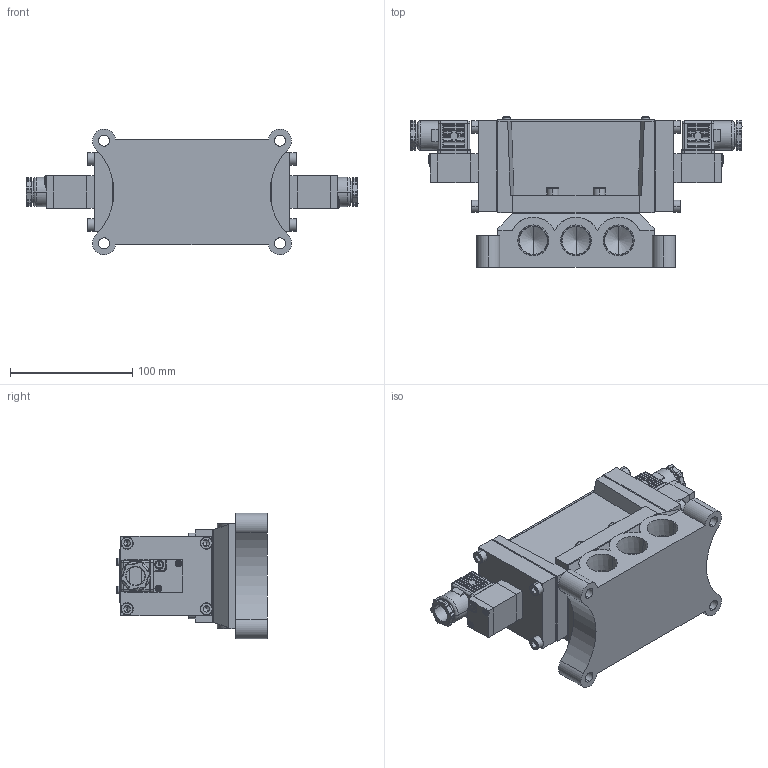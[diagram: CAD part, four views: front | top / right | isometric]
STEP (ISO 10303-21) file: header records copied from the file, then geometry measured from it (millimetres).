
FILE_DESCRIPTION (( 'STEP AP203' ), '1' );
FILE_NAME ('PMD2415#-06-#C#.STEP', '2016-03-09T06:29:37', ( 'Sam Lin' ), ( '' ), 'SwSTEP 2.0', 'SolidWorks 2013', '' );
FILE_SCHEMA (( 'CONFIG_CONTROL_DESIGN' ));
Length unit declared in the file: metre
Products named in the file (16): PM06-C4_1; PMS2415-2; PM06-C6-M3_1; PMS2415-3; PM06-C5_1; PMS2415-4; PMS2306-6(C); PM15-MARK-24; PMS2415-7; PMS2415-5; PMS2415-6-06; PM06-C3-M4_1; PMD2415#-06-#C#; ISO 4762 M6 x 12; PM06-C1_1; PMS2415-1
Assembly tree (39 placements, depth 2):
  PMD2415#-06-#C#
    PMS2415-1
    PMS2415-2
    PMS2415-3  x2
    PMS2415-4  x2
    PM15-MARK-24
    PMS2415-5
    PM06-C3-M4_1  x4
    ISO 4762 M6 x 12  x12
    PM06-C1_1  x2
    PM06-C4_1  x2
    PM06-C6-M3_1  x4
    PM06-C5_1  x2
    PMS2306-6(C)  x2
    PMS2415-7  x2
    PMS2415-6-06
Bounding box: 272 x 123.55 x 102.97 mm (x, y, z)
Volume: 1210093.9 mm3; surface area: 225751.7 mm2
Topology: 45 solids, 45 shells, 1586 faces, 3937 edges, 2249 vertices
Faces by surface type: plane 632, cylinder 424, bspline 392, cone 138
Entity records: 29637 total; most frequent: CARTESIAN_POINT 11847, ORIENTED_EDGE 3294, DIRECTION 3059, EDGE_CURVE 1647, AXIS2_PLACEMENT_3D 1116, VERTEX_POINT 1040, LINE 827, VECTOR 827
